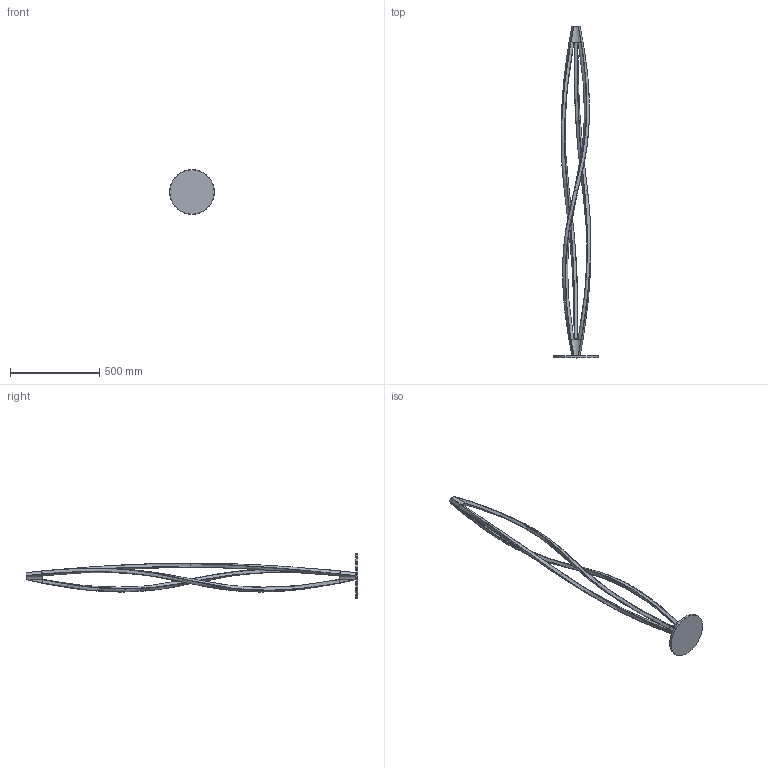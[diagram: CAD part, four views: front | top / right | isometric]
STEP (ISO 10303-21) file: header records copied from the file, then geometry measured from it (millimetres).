
FILE_DESCRIPTION (( 'STEP AP203' ), '1' );
FILE_NAME ('Nemo_In the wind terra.STEP', '2012-11-12T17:18:13', ( '' ), ( '' ), 'SwSTEP 2.0', 'SolidWorks 2012', '' );
FILE_SCHEMA (( 'CONFIG_CONTROL_DESIGN' ));
Length unit declared in the file: millimetre
Products named in the file (1): Nemo_In the wind terra
Bounding box: 250.75 x 1862.17 x 250.75 mm (x, y, z)
Volume: 2966432.1 mm3; surface area: 543810.9 mm2
Topology: 1 solids, 1 shells, 269 faces, 728 edges, 452 vertices
Faces by surface type: bspline 200, plane 33, cylinder 20, sphere 12, torus 4
Entity records: 23104 total; most frequent: CARTESIAN_POINT 18071, ORIENTED_EDGE 1444, EDGE_CURVE 722, B_SPLINE_CURVE_WITH_KNOTS 546, VERTEX_POINT 452, DIRECTION 418, EDGE_LOOP 270, ADVANCED_FACE 269
